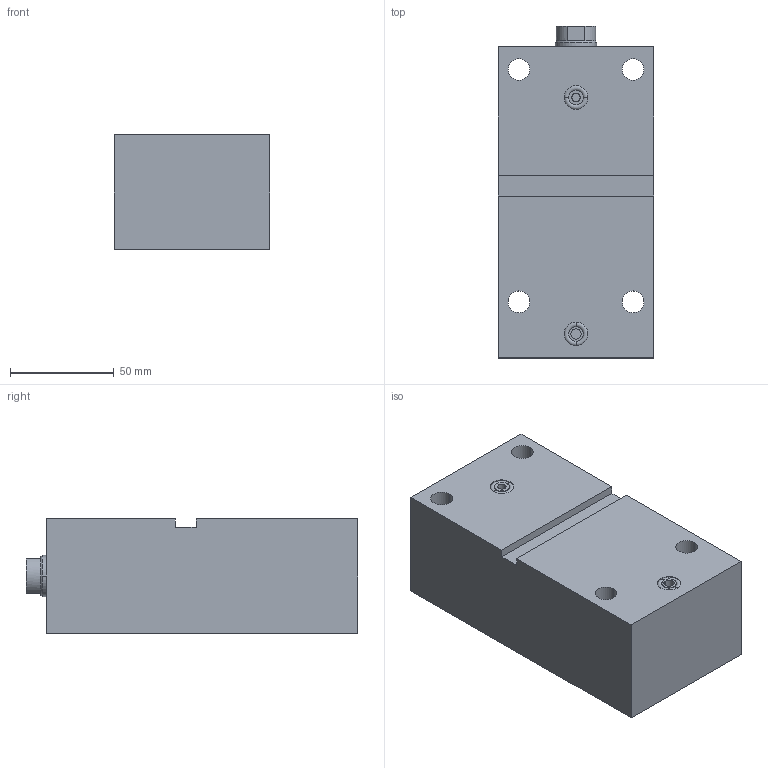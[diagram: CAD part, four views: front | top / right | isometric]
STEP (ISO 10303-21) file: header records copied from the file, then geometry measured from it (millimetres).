
FILE_DESCRIPTION (( 'STEP AP203' ), '1' );
FILE_NAME ('GERMA_Blockzylinder_603-032-100.STEP', '2016-01-24T16:04:52', ( '' ), ( '' ), 'SwSTEP 2.0', 'SolidWorks 2015', '' );
FILE_SCHEMA (( 'CONFIG_CONTROL_DESIGN' ));
Length unit declared in the file: millimetre
Products named in the file (3): GH-600-032_GH-603-032-100; Kolben 60x-032_Kolben DU.32-Hub100-IG; GERMA_Blockzylinder_603-032-100
Assembly tree (2 placements, depth 2):
  GERMA_Blockzylinder_603-032-100
    GH-600-032_GH-603-032-100
    Kolben 60x-032_Kolben DU.32-Hub100-IG
Bounding box: 75 x 160 x 55 mm (x, y, z)
Volume: 548458.6 mm3; surface area: 80730.3 mm2
Topology: 2 solids, 2 shells, 85 faces, 188 edges, 114 vertices
Faces by surface type: cylinder 41, plane 26, cone 14, torus 4
Entity records: 2638 total; most frequent: DIRECTION 459, CARTESIAN_POINT 386, ORIENTED_EDGE 364, AXIS2_PLACEMENT_3D 187, EDGE_CURVE 182, VERTEX_POINT 114, EDGE_LOOP 106, CIRCLE 97
